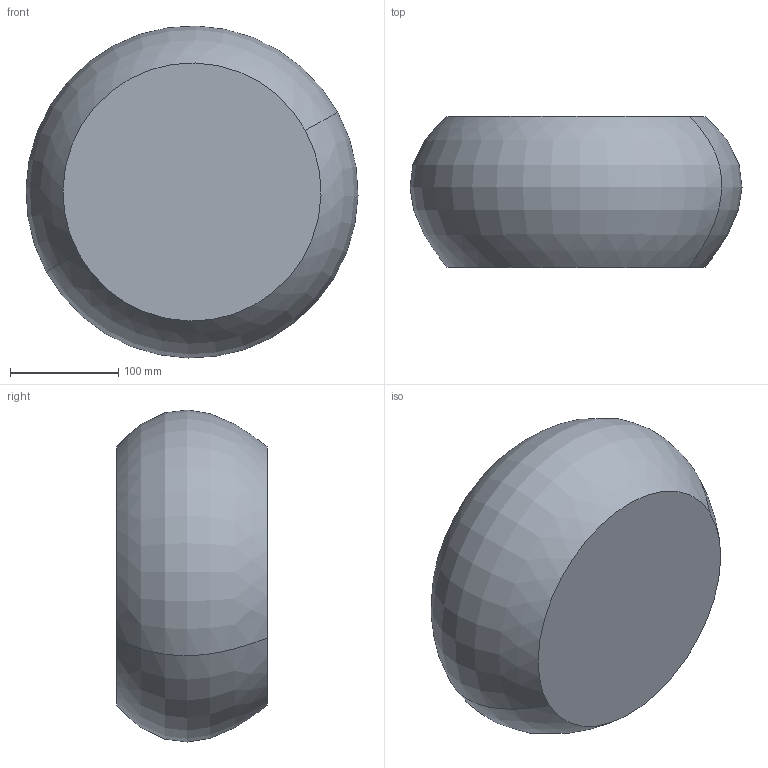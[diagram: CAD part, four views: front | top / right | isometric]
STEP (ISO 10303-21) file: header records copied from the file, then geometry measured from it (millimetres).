
FILE_DESCRIPTION(('CATIA V5 STEP Exchange'),'2;1');
FILE_NAME('C:\_Andres\UNIVERSIDAD\IQS\ASIGNATURAS\DAO\EXF\EXF-15161c\1original\Wand_Domenech_Ej10-decora_v29.stp','2016-03-04T22:24:15+00:00',('none'),('none'),'CATIA Version 5 Release 20 SP 1 (IN-10)','CATIA V5 STEP AP203','none');
FILE_SCHEMA(('CONFIG_CONTROL_DESIGN'));
Length unit declared in the file: millimetre
Products named in the file (1): Wand_Domenech_Ej10-decora_v29
Bounding box: 306.17 x 139 x 306.17 mm (x, y, z)
Volume: 8820911.1 mm3; surface area: 229579.4 mm2
Topology: 1 solids, 1 shells, 4 faces, 6 edges, 4 vertices
Faces by surface type: revolution 2, plane 2
Entity records: 166 total; most frequent: CARTESIAN_POINT 50, DIRECTION 12, ORIENTED_EDGE 12, AXIS2_PLACEMENT_3D 8, EDGE_CURVE 6, ADVANCED_FACE 4, B_SPLINE_CURVE_WITH_KNOTS 4, CC_DESIGN_PERSON_AND_ORGANIZATION_ASSIGNMENT 4
